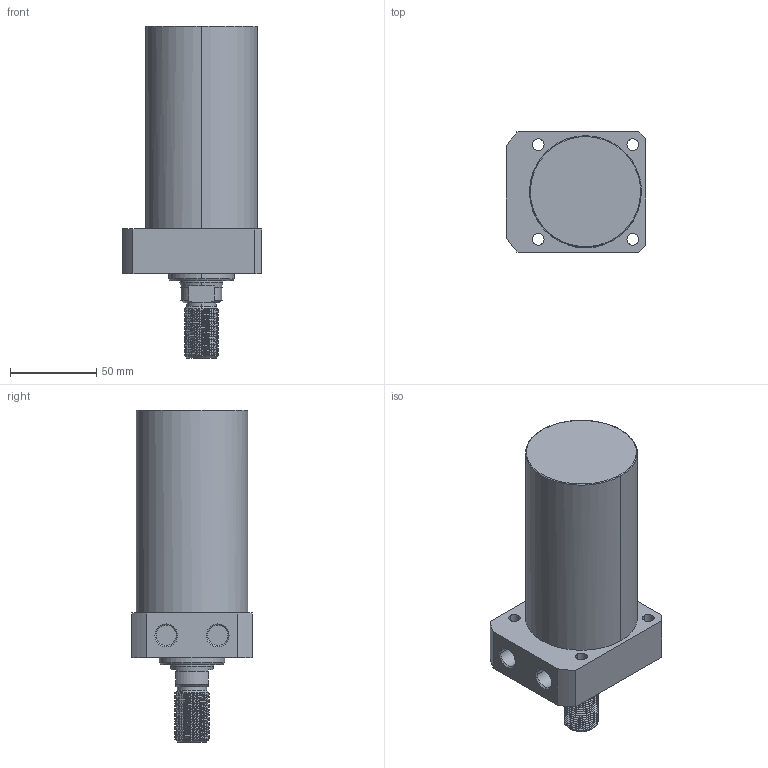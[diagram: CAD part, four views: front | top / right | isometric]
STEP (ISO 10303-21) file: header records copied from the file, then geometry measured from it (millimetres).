
FILE_DESCRIPTION((' '),'2;1');
FILE_NAME( 'TLLR-065CT-085.STEP.stp', '2025-10-24T16:34:59', (' '), ('--- Datakit www.datakit.com---'), ' Datakit CrossCadWare V2024.1 Dec 21 2023', 'Mastercam 2025', ' ');
FILE_SCHEMA(('AUTOMOTIVE_DESIGN { 1 0 10303 214 1 1 1 1 }'));
Length unit declared in the file: millimetre
Products named in the file (1): TLLR-065CT-085
Bounding box: 81 x 70 x 193 mm (x, y, z)
Volume: 548056.8 mm3; surface area: 50668.2 mm2
Topology: 1 solids, 1 shells, 106 faces, 383 edges, 287 vertices
Faces by surface type: cylinder 66, plane 20, cone 16, bspline 2, torus 2
Entity records: 12614 total; most frequent: CARTESIAN_POINT 9348, ORIENTED_EDGE 766, DIRECTION 535, EDGE_CURVE 383, VERTEX_POINT 287, AXIS2_PLACEMENT_3D 216, B_SPLINE_CURVE_WITH_KNOTS 169, EDGE_LOOP 122
